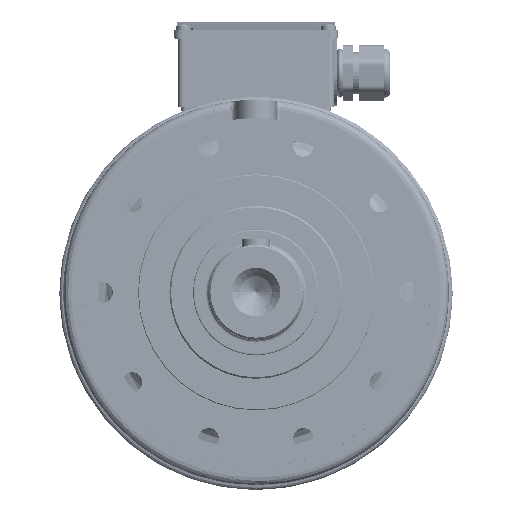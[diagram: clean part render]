
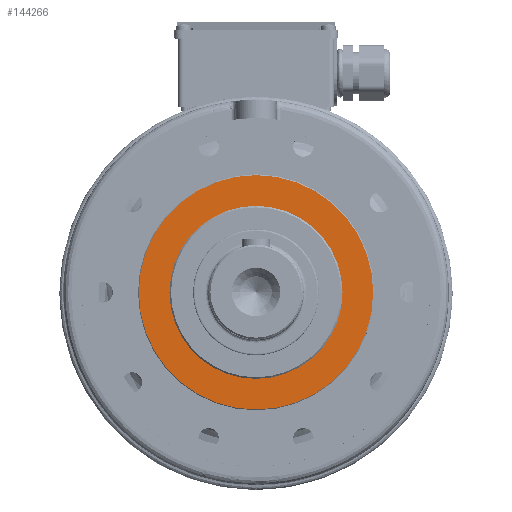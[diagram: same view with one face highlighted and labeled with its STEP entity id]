
A CAD part, top view. The second image highlights one B-rep face of the part: STEP entity #144266.
In plain terms, the highlighted planar face has unit normal (0, 0, 1).
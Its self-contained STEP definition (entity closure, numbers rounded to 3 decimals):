
#96803 = AXIS2_PLACEMENT_3D ( 'NONE', #151345, #151253, #151318 ) ;
#106676 = VERTEX_POINT ( 'NONE', #130834 ) ;
#106697 = VERTEX_POINT ( 'NONE', #130857 ) ;
#106707 = VERTEX_POINT ( 'NONE', #130837 ) ;
#106717 = VERTEX_POINT ( 'NONE', #130993 ) ;
#108648 = FACE_BOUND ( 'NONE', #128779, .T. ) ;
#108688 = FACE_OUTER_BOUND ( 'NONE', #128877, .T. ) ;
#121327 = AXIS2_PLACEMENT_3D ( 'NONE', #287930, #287934, #287975 ) ;
#121328 = AXIS2_PLACEMENT_3D ( 'NONE', #297577, #297568, #297586 ) ;
#121355 = AXIS2_PLACEMENT_3D ( 'NONE', #287599, #287627, #287600 ) ;
#121358 = AXIS2_PLACEMENT_3D ( 'NONE', #287918, #287951, #287992 ) ;
#128779 = EDGE_LOOP ( 'NONE', ( #195952, #196072 ) ) ;
#128877 = EDGE_LOOP ( 'NONE', ( #195975, #195915 ) ) ;
#130834 = CARTESIAN_POINT ( 'NONE',  ( -55., 0., 133.6 ) ) ;
#130837 = CARTESIAN_POINT ( 'NONE',  ( 55., 0., 133.6 ) ) ;
#130857 = CARTESIAN_POINT ( 'NONE',  ( 0., -74.5, 133.6 ) ) ;
#130993 = CARTESIAN_POINT ( 'NONE',  ( 0., 74.5, 133.6 ) ) ;
#144266 = ADVANCED_FACE ( 'NONE', ( #108688, #108648 ), #151338, .T. ) ;
#151253 = DIRECTION ( 'NONE',  ( 0., 0., 1. ) ) ;
#151318 = DIRECTION ( 'NONE',  ( 0., -1., 0. ) ) ;
#151338 = PLANE ( 'NONE',  #96803 ) ;
#151345 = CARTESIAN_POINT ( 'NONE',  ( 0., 74.5, 133.6 ) ) ;
#195915 = ORIENTED_EDGE ( 'NONE', *, *, #206363, .F. ) ;
#195952 = ORIENTED_EDGE ( 'NONE', *, *, #206416, .T. ) ;
#195975 = ORIENTED_EDGE ( 'NONE', *, *, #206415, .F. ) ;
#196072 = ORIENTED_EDGE ( 'NONE', *, *, #206475, .T. ) ;
#206363 = EDGE_CURVE ( 'NONE', #106697, #106717, #292953, .T. ) ;
#206415 = EDGE_CURVE ( 'NONE', #106717, #106697, #293169, .T. ) ;
#206416 = EDGE_CURVE ( 'NONE', #106676, #106707, #293303, .T. ) ;
#206475 = EDGE_CURVE ( 'NONE', #106707, #106676, #293611, .T. ) ;
#287599 = CARTESIAN_POINT ( 'NONE',  ( 0., 0., 133.6 ) ) ;
#287600 = DIRECTION ( 'NONE',  ( 0., 1., 0. ) ) ;
#287627 = DIRECTION ( 'NONE',  ( 0., 0., -1. ) ) ;
#287918 = CARTESIAN_POINT ( 'NONE',  ( 0., 0., 133.6 ) ) ;
#287930 = CARTESIAN_POINT ( 'NONE',  ( 0., 0., 133.6 ) ) ;
#287934 = DIRECTION ( 'NONE',  ( 0., 0., -1. ) ) ;
#287951 = DIRECTION ( 'NONE',  ( 0., 0., -1. ) ) ;
#287975 = DIRECTION ( 'NONE',  ( 0., 1., 0. ) ) ;
#287992 = DIRECTION ( 'NONE',  ( -1., 0., 0. ) ) ;
#292953 = CIRCLE ( 'NONE', #121355, 74.5 ) ;
#293169 = CIRCLE ( 'NONE', #121327, 74.5 ) ;
#293303 = CIRCLE ( 'NONE', #121358, 55. ) ;
#293611 = CIRCLE ( 'NONE', #121328, 55. ) ;
#297568 = DIRECTION ( 'NONE',  ( 0., 0., -1. ) ) ;
#297577 = CARTESIAN_POINT ( 'NONE',  ( 0., 0., 133.6 ) ) ;
#297586 = DIRECTION ( 'NONE',  ( -1., 0., 0. ) ) ;
